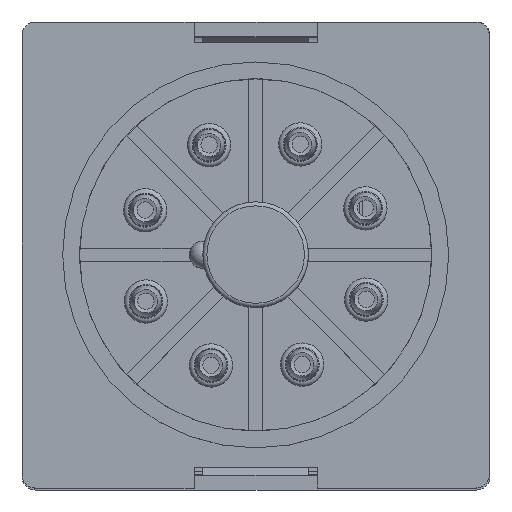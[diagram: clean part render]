
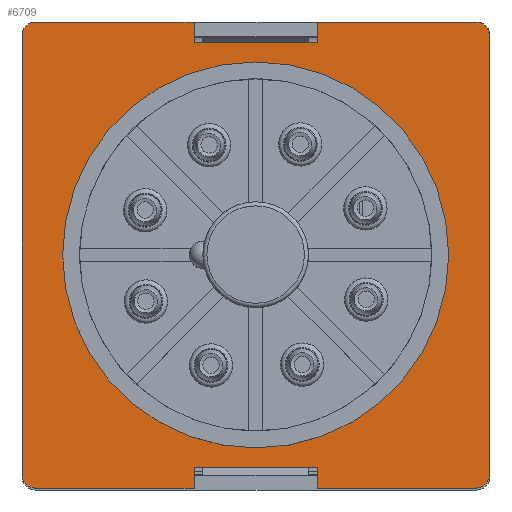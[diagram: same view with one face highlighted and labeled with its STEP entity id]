
A CAD part, top view. The second image highlights one B-rep face of the part: STEP entity #6709.
In plain terms, the highlighted planar face has unit normal (0, 0, 1).
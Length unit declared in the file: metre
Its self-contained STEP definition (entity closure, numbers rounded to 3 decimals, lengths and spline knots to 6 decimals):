
#4082=CARTESIAN_POINT('',(0.034316,0.003497,0.039761));
#4083=DIRECTION('',(0.,0.,1.));
#4084=DIRECTION('',(1.,0.,0.));
#4085=AXIS2_PLACEMENT_3D('',#4082,#4083,#4084);
#4086=PLANE('',#4085);
#5897=CARTESIAN_POINT('',(0.038866,0.058746,0.039761));
#5898=VERTEX_POINT('',#5897);
#5901=CARTESIAN_POINT('',(0.034316,0.058746,0.039761));
#5902=DIRECTION('',(1.,0.,0.));
#5903=VECTOR('',#5902,1.);
#5904=LINE('',#5901,#5903);
#5905=CARTESIAN_POINT('',(0.050566,0.058746,0.039761));
#5906=VERTEX_POINT('',#5905);
#5907=EDGE_CURVE('',#5898,#5906,#5904,.T.);
#5941=CARTESIAN_POINT('',(0.050566,0.057746,0.039761));
#5942=DIRECTION('',(0.,0.,1.));
#5943=DIRECTION('',(1.,0.,0.));
#5944=AXIS2_PLACEMENT_3D('',#5941,#5942,#5943);
#5945=CIRCLE('',#5944,0.001);
#5946=CARTESIAN_POINT('',(0.051566,0.057746,0.039761));
#5947=VERTEX_POINT('',#5946);
#5948=EDGE_CURVE('',#5947,#5906,#5945,.T.);
#5981=CARTESIAN_POINT('',(0.051566,0.003497,0.039761));
#5982=DIRECTION('',(0.,-1.,0.));
#5983=VECTOR('',#5982,1.);
#5984=LINE('',#5981,#5983);
#5985=CARTESIAN_POINT('',(0.051566,0.025334,0.039761));
#5986=VERTEX_POINT('',#5985);
#5987=EDGE_CURVE('',#5947,#5986,#5984,.T.);
#6021=CARTESIAN_POINT('',(0.050566,0.025334,0.039761));
#6022=DIRECTION('',(0.,0.,1.));
#6023=DIRECTION('',(1.,0.,0.));
#6024=AXIS2_PLACEMENT_3D('',#6021,#6022,#6023);
#6025=CIRCLE('',#6024,0.001);
#6026=CARTESIAN_POINT('',(0.050566,0.024334,0.039761));
#6027=VERTEX_POINT('',#6026);
#6028=EDGE_CURVE('',#6027,#5986,#6025,.T.);
#6061=CARTESIAN_POINT('',(0.034316,0.024334,0.039761));
#6062=DIRECTION('',(1.,0.,0.));
#6063=VECTOR('',#6062,1.);
#6064=LINE('',#6061,#6063);
#6065=CARTESIAN_POINT('',(0.038866,0.024334,0.039761));
#6066=VERTEX_POINT('',#6065);
#6067=EDGE_CURVE('',#6066,#6027,#6064,.T.);
#6100=CARTESIAN_POINT('',(0.038866,0.003497,0.039761));
#6101=DIRECTION('',(0.,1.,0.));
#6102=VECTOR('',#6101,1.);
#6103=LINE('',#6100,#6102);
#6104=CARTESIAN_POINT('',(0.038866,0.025846,0.039761));
#6105=VERTEX_POINT('',#6104);
#6106=EDGE_CURVE('',#6066,#6105,#6103,.T.);
#6134=CARTESIAN_POINT('',(0.029766,0.025846,0.039761));
#6135=VERTEX_POINT('',#6134);
#6219=CARTESIAN_POINT('',(0.034316,0.025846,0.039761));
#6220=DIRECTION('',(-1.,0.,0.));
#6221=VECTOR('',#6220,1.);
#6222=LINE('',#6219,#6221);
#6223=EDGE_CURVE('',#6105,#6135,#6222,.T.);
#6261=CARTESIAN_POINT('',(0.029766,0.003497,0.039761));
#6262=DIRECTION('',(0.,1.,0.));
#6263=VECTOR('',#6262,1.);
#6264=LINE('',#6261,#6263);
#6265=CARTESIAN_POINT('',(0.029766,0.024334,0.039761));
#6266=VERTEX_POINT('',#6265);
#6267=EDGE_CURVE('',#6266,#6135,#6264,.T.);
#6300=CARTESIAN_POINT('',(0.034316,0.024334,0.039761));
#6301=DIRECTION('',(1.,0.,0.));
#6302=VECTOR('',#6301,1.);
#6303=LINE('',#6300,#6302);
#6304=CARTESIAN_POINT('',(0.018066,0.024334,0.039761));
#6305=VERTEX_POINT('',#6304);
#6306=EDGE_CURVE('',#6305,#6266,#6303,.T.);
#6340=CARTESIAN_POINT('',(0.018066,0.025334,0.039761));
#6341=DIRECTION('',(0.,0.,1.));
#6342=DIRECTION('',(1.,0.,0.));
#6343=AXIS2_PLACEMENT_3D('',#6340,#6341,#6342);
#6344=CIRCLE('',#6343,0.001);
#6345=CARTESIAN_POINT('',(0.017066,0.025334,0.039761));
#6346=VERTEX_POINT('',#6345);
#6347=EDGE_CURVE('',#6346,#6305,#6344,.T.);
#6380=CARTESIAN_POINT('',(0.017066,0.003497,0.039761));
#6381=DIRECTION('',(0.,-1.,0.));
#6382=VECTOR('',#6381,1.);
#6383=LINE('',#6380,#6382);
#6384=CARTESIAN_POINT('',(0.017066,0.057746,0.039761));
#6385=VERTEX_POINT('',#6384);
#6386=EDGE_CURVE('',#6385,#6346,#6383,.T.);
#6420=CARTESIAN_POINT('',(0.018066,0.057746,0.039761));
#6421=DIRECTION('',(0.,0.,1.));
#6422=DIRECTION('',(1.,0.,0.));
#6423=AXIS2_PLACEMENT_3D('',#6420,#6421,#6422);
#6424=CIRCLE('',#6423,0.001);
#6425=CARTESIAN_POINT('',(0.018066,0.058746,0.039761));
#6426=VERTEX_POINT('',#6425);
#6427=EDGE_CURVE('',#6426,#6385,#6424,.T.);
#6460=CARTESIAN_POINT('',(0.034316,0.058746,0.039761));
#6461=DIRECTION('',(1.,0.,0.));
#6462=VECTOR('',#6461,1.);
#6463=LINE('',#6460,#6462);
#6464=CARTESIAN_POINT('',(0.029766,0.058746,0.039761));
#6465=VERTEX_POINT('',#6464);
#6466=EDGE_CURVE('',#6426,#6465,#6463,.T.);
#6499=CARTESIAN_POINT('',(0.029766,0.003497,0.039761));
#6500=DIRECTION('',(0.,-1.,0.));
#6501=VECTOR('',#6500,1.);
#6502=LINE('',#6499,#6501);
#6503=CARTESIAN_POINT('',(0.029766,0.057246,0.039761));
#6504=VERTEX_POINT('',#6503);
#6505=EDGE_CURVE('',#6465,#6504,#6502,.T.);
#6533=CARTESIAN_POINT('',(0.038866,0.057246,0.039761));
#6534=VERTEX_POINT('',#6533);
#6622=CARTESIAN_POINT('',(0.034316,0.057246,0.039761));
#6623=DIRECTION('',(-1.,0.,0.));
#6624=VECTOR('',#6623,1.);
#6625=LINE('',#6622,#6624);
#6626=EDGE_CURVE('',#6534,#6504,#6625,.T.);
#6662=CARTESIAN_POINT('',(0.038866,0.003497,0.039761));
#6663=DIRECTION('',(0.,-1.,0.));
#6664=VECTOR('',#6663,1.);
#6665=LINE('',#6662,#6664);
#6666=EDGE_CURVE('',#5898,#6534,#6665,.T.);
#6680=ORIENTED_EDGE('',*,*,#6666,.T.);
#6681=ORIENTED_EDGE('',*,*,#6626,.T.);
#6682=ORIENTED_EDGE('',*,*,#6505,.F.);
#6683=ORIENTED_EDGE('',*,*,#6466,.F.);
#6684=ORIENTED_EDGE('',*,*,#6427,.T.);
#6685=ORIENTED_EDGE('',*,*,#6386,.T.);
#6686=ORIENTED_EDGE('',*,*,#6347,.T.);
#6687=ORIENTED_EDGE('',*,*,#6306,.T.);
#6688=ORIENTED_EDGE('',*,*,#6267,.T.);
#6689=ORIENTED_EDGE('',*,*,#6223,.F.);
#6690=ORIENTED_EDGE('',*,*,#6106,.F.);
#6691=ORIENTED_EDGE('',*,*,#6067,.T.);
#6692=ORIENTED_EDGE('',*,*,#6028,.T.);
#6693=ORIENTED_EDGE('',*,*,#5987,.F.);
#6694=ORIENTED_EDGE('',*,*,#5948,.T.);
#6695=ORIENTED_EDGE('',*,*,#5907,.F.);
#6696=EDGE_LOOP('',(#6680,#6681,#6682,#6683,#6684,#6685,#6686,#6687,#6688,#6689,#6690,#6691,#6692,#6693,#6694,#6695));
#6697=FACE_BOUND('',#6696,.T.);
#6698=CARTESIAN_POINT('',(0.034316,0.041546,0.039761));
#6699=DIRECTION('',(0.,0.,1.));
#6700=DIRECTION('',(1.,0.,0.));
#6701=AXIS2_PLACEMENT_3D('',#6698,#6699,#6700);
#6702=CIRCLE('',#6701,0.01425);
#6703=CARTESIAN_POINT('',(0.020066,0.041546,0.039761));
#6704=VERTEX_POINT('',#6703);
#6705=EDGE_CURVE('',#6704,#6704,#6702,.T.);
#6706=ORIENTED_EDGE('',*,*,#6705,.F.);
#6707=EDGE_LOOP('',(#6706));
#6708=FACE_BOUND('',#6707,.T.);
#6709=ADVANCED_FACE('',(#6697,#6708),#4086,.T.);
